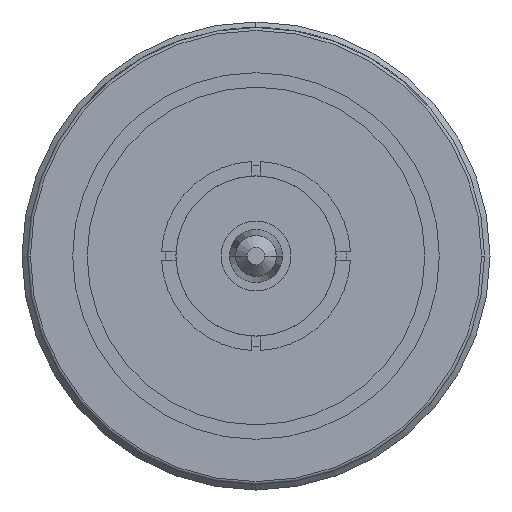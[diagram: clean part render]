
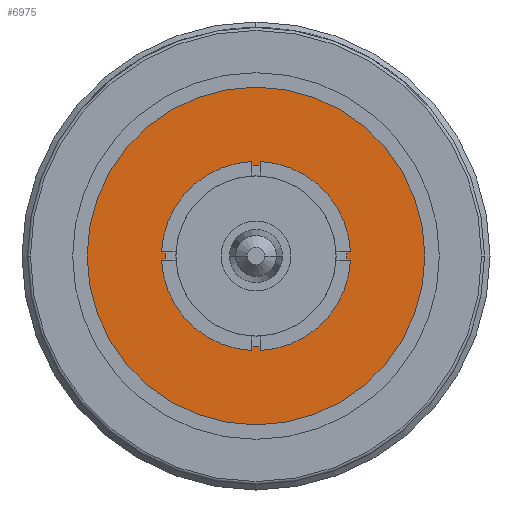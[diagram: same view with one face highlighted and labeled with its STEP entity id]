
A CAD part, left-side view. The second image highlights one B-rep face of the part: STEP entity #6975.
In plain terms, the highlighted planar face has unit normal (-1, 0, 0).
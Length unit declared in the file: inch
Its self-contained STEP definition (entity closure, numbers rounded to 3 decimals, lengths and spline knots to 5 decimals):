
#15=CARTESIAN_POINT('',(0.337,0.,0.));
#16=DIRECTION('',(1.,0.,0.));
#17=DIRECTION('',(0.,-1.,0.));
#18=AXIS2_PLACEMENT_3D('',#15,#16,#17);
#20=CARTESIAN_POINT('',(0.337,0.,0.));
#21=DIRECTION('',(1.,0.,0.));
#22=DIRECTION('',(0.,1.,0.));
#23=AXIS2_PLACEMENT_3D('',#20,#21,#22);
#25=DIRECTION('',(0.,0.,-1.));
#26=VECTOR('',#25,0.00626);
#27=CARTESIAN_POINT('',(0.337,-0.0075,0.16233));
#28=LINE('',#27,#26);
#29=CARTESIAN_POINT('',(0.337,0.,0.));
#30=DIRECTION('',(-1.,0.,0.));
#31=DIRECTION('',(0.,-0.048,0.999));
#32=AXIS2_PLACEMENT_3D('',#29,#30,#31);
#34=CARTESIAN_POINT('',(0.337,0.,0.));
#35=DIRECTION('',(-1.,0.,0.));
#36=DIRECTION('',(0.,0.046,0.999));
#37=AXIS2_PLACEMENT_3D('',#34,#35,#36);
#39=CARTESIAN_POINT('',(0.337,0.,0.));
#40=DIRECTION('',(-1.,0.,0.));
#41=DIRECTION('',(0.,0.999,0.048));
#42=AXIS2_PLACEMENT_3D('',#39,#40,#41);
#44=CARTESIAN_POINT('',(0.337,0.,0.));
#45=DIRECTION('',(-1.,0.,0.));
#46=DIRECTION('',(0.,0.999,-0.046));
#47=AXIS2_PLACEMENT_3D('',#44,#45,#46);
#49=CARTESIAN_POINT('',(0.337,0.,0.));
#50=DIRECTION('',(-1.,0.,0.));
#51=DIRECTION('',(0.,0.048,-0.999));
#52=AXIS2_PLACEMENT_3D('',#49,#50,#51);
#54=CARTESIAN_POINT('',(0.337,0.,0.));
#55=DIRECTION('',(-1.,0.,0.));
#56=DIRECTION('',(0.,-0.046,-0.999));
#57=AXIS2_PLACEMENT_3D('',#54,#55,#56);
#59=CARTESIAN_POINT('',(0.337,0.,0.));
#60=DIRECTION('',(-1.,0.,0.));
#61=DIRECTION('',(0.,-0.999,-0.048));
#62=AXIS2_PLACEMENT_3D('',#59,#60,#61);
#64=CARTESIAN_POINT('',(0.337,0.,0.));
#65=DIRECTION('',(-1.,0.,0.));
#66=DIRECTION('',(0.,-1.,0.));
#67=AXIS2_PLACEMENT_3D('',#64,#65,#66);
#69=CARTESIAN_POINT('',(0.337,0.,0.));
#70=DIRECTION('',(-1.,0.,0.));
#71=DIRECTION('',(0.,-0.999,0.046));
#72=AXIS2_PLACEMENT_3D('',#69,#70,#71);
#5207=DIRECTION('',(0.,1.,0.));
#5208=VECTOR('',#5207,0.00626);
#5209=CARTESIAN_POINT('',(0.337,-0.16233,0.0075));
#5210=LINE('',#5209,#5208);
#5223=DIRECTION('',(0.,-1.,0.));
#5224=VECTOR('',#5223,0.00626);
#5225=CARTESIAN_POINT('',(0.337,-0.15607,-0.0075));
#5226=LINE('',#5225,#5224);
#5243=DIRECTION('',(0.,0.,1.));
#5244=VECTOR('',#5243,0.00626);
#5245=CARTESIAN_POINT('',(0.337,-0.0075,-0.16233));
#5246=LINE('',#5245,#5244);
#5251=DIRECTION('',(0.,0.,-1.));
#5252=VECTOR('',#5251,0.00626);
#5253=CARTESIAN_POINT('',(0.337,0.0075,-0.15607));
#5254=LINE('',#5253,#5252);
#5267=DIRECTION('',(0.,-1.,0.));
#5268=VECTOR('',#5267,0.00626);
#5269=CARTESIAN_POINT('',(0.337,0.16233,-0.0075));
#5270=LINE('',#5269,#5268);
#5298=DIRECTION('',(0.,1.,0.));
#5299=VECTOR('',#5298,0.00626);
#5300=CARTESIAN_POINT('',(0.337,0.15607,0.0075));
#5301=LINE('',#5300,#5299);
#5314=DIRECTION('',(0.,0.,-1.));
#5315=VECTOR('',#5314,0.00626);
#5316=CARTESIAN_POINT('',(0.337,0.0075,0.16233));
#5317=LINE('',#5316,#5315);
#5556=CARTESIAN_POINT('',(0.337,-0.0075,0.16233));
#5557=CARTESIAN_POINT('',(0.337,-0.0075,0.15607));
#5558=VERTEX_POINT('',#5556);
#5559=VERTEX_POINT('',#5557);
#5562=CARTESIAN_POINT('',(0.337,-0.3125,0.));
#5563=CARTESIAN_POINT('',(0.337,0.3125,0.));
#5564=VERTEX_POINT('',#5562);
#5565=VERTEX_POINT('',#5563);
#5566=CARTESIAN_POINT('',(0.337,0.0075,0.15607));
#5567=VERTEX_POINT('',#5566);
#5568=CARTESIAN_POINT('',(0.337,0.0075,-0.15607));
#5569=CARTESIAN_POINT('',(0.337,-0.0075,-0.15607));
#5570=VERTEX_POINT('',#5568);
#5571=VERTEX_POINT('',#5569);
#6782=CARTESIAN_POINT('',(0.337,-0.15607,-0.0075));
#6783=CARTESIAN_POINT('',(0.337,-0.15625,0.));
#6784=VERTEX_POINT('',#6782);
#6785=VERTEX_POINT('',#6783);
#6786=CARTESIAN_POINT('',(0.337,-0.15607,0.0075));
#6787=VERTEX_POINT('',#6786);
#6798=CARTESIAN_POINT('',(0.337,0.15607,0.0075));
#6799=CARTESIAN_POINT('',(0.337,0.15607,-0.0075));
#6800=VERTEX_POINT('',#6798);
#6801=VERTEX_POINT('',#6799);
#6802=CARTESIAN_POINT('',(0.337,-0.0075,-0.16233));
#6803=VERTEX_POINT('',#6802);
#6816=CARTESIAN_POINT('',(0.337,0.0075,-0.16233));
#6817=VERTEX_POINT('',#6816);
#6822=CARTESIAN_POINT('',(0.337,0.16233,-0.0075));
#6823=VERTEX_POINT('',#6822);
#6826=CARTESIAN_POINT('',(0.337,-0.16233,-0.0075));
#6827=VERTEX_POINT('',#6826);
#6838=CARTESIAN_POINT('',(0.337,0.16233,0.0075));
#6839=VERTEX_POINT('',#6838);
#6844=CARTESIAN_POINT('',(0.337,-0.16233,0.0075));
#6845=VERTEX_POINT('',#6844);
#6846=CARTESIAN_POINT('',(0.337,0.0075,0.16233));
#6847=VERTEX_POINT('',#6846);
#6929=CARTESIAN_POINT('',(0.337,0.,0.));
#6930=DIRECTION('',(1.,0.,0.));
#6931=DIRECTION('',(0.,-1.,0.));
#6932=AXIS2_PLACEMENT_3D('',#6929,#6930,#6931);
#6933=PLANE('',#6932);
#6935=ORIENTED_EDGE('',*,*,#6934,.T.);
#6937=ORIENTED_EDGE('',*,*,#6936,.T.);
#6938=EDGE_LOOP('',(#6935,#6937));
#6939=FACE_OUTER_BOUND('',#6938,.F.);
#6940=ORIENTED_EDGE('',*,*,#6915,.T.);
#6942=ORIENTED_EDGE('',*,*,#6941,.T.);
#6944=ORIENTED_EDGE('',*,*,#6943,.F.);
#6946=ORIENTED_EDGE('',*,*,#6945,.T.);
#6948=ORIENTED_EDGE('',*,*,#6947,.F.);
#6950=ORIENTED_EDGE('',*,*,#6949,.T.);
#6952=ORIENTED_EDGE('',*,*,#6951,.F.);
#6954=ORIENTED_EDGE('',*,*,#6953,.T.);
#6956=ORIENTED_EDGE('',*,*,#6955,.F.);
#6958=ORIENTED_EDGE('',*,*,#6957,.T.);
#6960=ORIENTED_EDGE('',*,*,#6959,.F.);
#6962=ORIENTED_EDGE('',*,*,#6961,.T.);
#6964=ORIENTED_EDGE('',*,*,#6963,.F.);
#6966=ORIENTED_EDGE('',*,*,#6965,.T.);
#6968=ORIENTED_EDGE('',*,*,#6967,.T.);
#6970=ORIENTED_EDGE('',*,*,#6969,.F.);
#6972=ORIENTED_EDGE('',*,*,#6971,.T.);
#6973=EDGE_LOOP('',(#6940,#6942,#6944,#6946,#6948,#6950,#6952,#6954,#6956,#6958,
#6960,#6962,#6964,#6966,#6968,#6970,#6972));
#6974=FACE_BOUND('',#6973,.F.);
#6975=ADVANCED_FACE('',(#6939,#6974),#6933,.F.);
#19=CIRCLE('',#18,0.3125);
#24=CIRCLE('',#23,0.3125);
#33=CIRCLE('',#32,0.15625);
#38=CIRCLE('',#37,0.1625);
#43=CIRCLE('',#42,0.15625);
#48=CIRCLE('',#47,0.1625);
#53=CIRCLE('',#52,0.15625);
#58=CIRCLE('',#57,0.1625);
#63=CIRCLE('',#62,0.15625);
#68=CIRCLE('',#67,0.15625);
#73=CIRCLE('',#72,0.1625);
#6915=EDGE_CURVE('',#5558,#5559,#28,.T.);
#6934=EDGE_CURVE('',#5564,#5565,#19,.T.);
#6936=EDGE_CURVE('',#5565,#5564,#24,.T.);
#6941=EDGE_CURVE('',#5559,#5567,#33,.T.);
#6943=EDGE_CURVE('',#6847,#5567,#5317,.T.);
#6945=EDGE_CURVE('',#6847,#6839,#38,.T.);
#6947=EDGE_CURVE('',#6800,#6839,#5301,.T.);
#6949=EDGE_CURVE('',#6800,#6801,#43,.T.);
#6951=EDGE_CURVE('',#6823,#6801,#5270,.T.);
#6953=EDGE_CURVE('',#6823,#6817,#48,.T.);
#6955=EDGE_CURVE('',#5570,#6817,#5254,.T.);
#6957=EDGE_CURVE('',#5570,#5571,#53,.T.);
#6959=EDGE_CURVE('',#6803,#5571,#5246,.T.);
#6961=EDGE_CURVE('',#6803,#6827,#58,.T.);
#6963=EDGE_CURVE('',#6784,#6827,#5226,.T.);
#6965=EDGE_CURVE('',#6784,#6785,#63,.T.);
#6967=EDGE_CURVE('',#6785,#6787,#68,.T.);
#6969=EDGE_CURVE('',#6845,#6787,#5210,.T.);
#6971=EDGE_CURVE('',#6845,#5558,#73,.T.);
